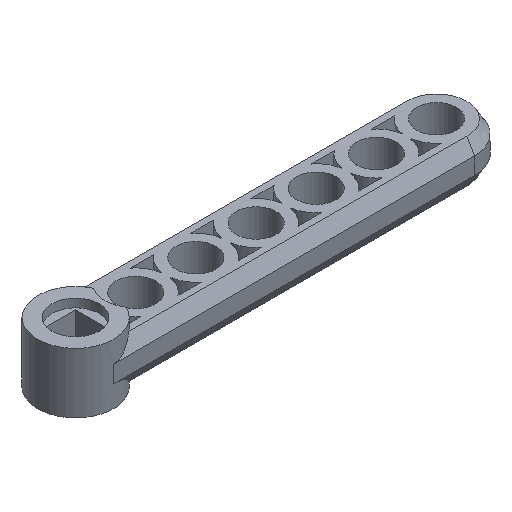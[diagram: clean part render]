
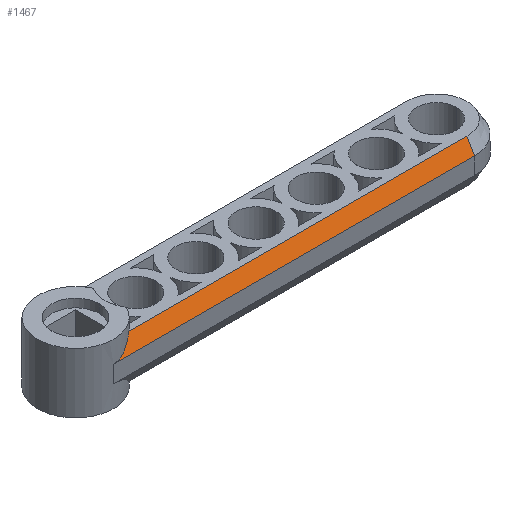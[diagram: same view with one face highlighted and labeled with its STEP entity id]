
A CAD part, isometric view. The second image highlights one B-rep face of the part: STEP entity #1467.
In plain terms, the highlighted planar face has unit normal (0, -0.866, 0.5).
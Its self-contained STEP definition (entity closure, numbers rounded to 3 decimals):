
#47 = FACE_OUTER_BOUND ( 'NONE', #2211, .T. ) ;
#79 = VECTOR ( 'NONE', #1424, 1000. ) ;
#82 = VERTEX_POINT ( 'NONE', #200 ) ;
#172 = VECTOR ( 'NONE', #829, 1000. ) ;
#200 = CARTESIAN_POINT ( 'NONE',  ( 38.1, -4., 0.9 ) ) ;
#223 = CARTESIAN_POINT ( 'NONE',  ( 38.1, -3.2, 2.286 ) ) ;
#256 = EDGE_CURVE ( 'NONE', #1491, #2900, #478, .T. ) ;
#478 = LINE ( 'NONE', #223, #79 ) ;
#484 = CARTESIAN_POINT ( 'NONE',  ( 0., -4., 0.9 ) ) ;
#591 = DIRECTION ( 'NONE',  ( 0., -0.5, -0.866 ) ) ;
#607 = DIRECTION ( 'NONE',  ( 0., -0.866, 0.5 ) ) ;
#652 = ORIENTED_EDGE ( 'NONE', *, *, #2482, .F. ) ;
#829 = DIRECTION ( 'NONE',  ( -1., 0., 0. ) ) ;
#1074 = EDGE_CURVE ( 'NONE', #82, #2772, #2035, .T. ) ;
#1113 = LINE ( 'NONE', #2089, #2714 ) ;
#1159 = CARTESIAN_POINT ( 'NONE',  ( 2.4, -3.2, 2.286 ) ) ;
#1283 = ORIENTED_EDGE ( 'NONE', *, *, #256, .F. ) ;
#1288 = CARTESIAN_POINT ( 'NONE',  ( 2.4, -3.2, 2.286 ) ) ;
#1404 = CARTESIAN_POINT ( 'NONE',  ( 1.701, -3.724, 1.379 ) ) ;
#1424 = DIRECTION ( 'NONE',  ( 1., 0., 0. ) ) ;
#1467 = ADVANCED_FACE ( 'NONE', ( #47 ), #2526, .T. ) ;
#1491 = VERTEX_POINT ( 'NONE', #1288 ) ;
#1900 = CARTESIAN_POINT ( 'NONE',  ( 0., -4., 0.9 ) ) ;
#2027 = CARTESIAN_POINT ( 'NONE',  ( 0., -3.2, 2.286 ) ) ;
#2035 = LINE ( 'NONE', #2083, #172 ) ;
#2081 = AXIS2_PLACEMENT_3D ( 'NONE', #2027, #607, #3004 ) ;
#2083 = CARTESIAN_POINT ( 'NONE',  ( 0., -4., 0.9 ) ) ;
#2089 = CARTESIAN_POINT ( 'NONE',  ( 38.1, -3.2, 2.286 ) ) ;
#2211 = EDGE_LOOP ( 'NONE', ( #652, #2887, #2266, #1283 ) ) ;
#2266 = ORIENTED_EDGE ( 'NONE', *, *, #2724, .F. ) ;
#2459 = CARTESIAN_POINT ( 'NONE',  ( 38.1, -3.2, 2.286 ) ) ;
#2482 = EDGE_CURVE ( 'NONE', #2772, #1491, #3192, .T. ) ;
#2526 = PLANE ( 'NONE',  #2081 ) ;
#2714 = VECTOR ( 'NONE', #591, 1000. ) ;
#2724 = EDGE_CURVE ( 'NONE', #2900, #82, #1113, .T. ) ;
#2772 = VERTEX_POINT ( 'NONE', #484 ) ;
#2887 = ORIENTED_EDGE ( 'NONE', *, *, #1074, .F. ) ;
#2900 = VERTEX_POINT ( 'NONE', #2459 ) ;
#2924 = CARTESIAN_POINT ( 'NONE',  ( 0.873, -4., 0.9 ) ) ;
#3004 = DIRECTION ( 'NONE',  ( -1., 0., 0. ) ) ;
#3192 =( BOUNDED_CURVE ( )  B_SPLINE_CURVE ( 3, ( #1900, #2924, #1404, #1159 ),
 .UNSPECIFIED., .F., .F. ) 
 B_SPLINE_CURVE_WITH_KNOTS ( ( 4, 4 ),
 ( 3.142, 3.785 ),
 .UNSPECIFIED. ) 
 CURVE ( )  GEOMETRIC_REPRESENTATION_ITEM ( )  RATIONAL_B_SPLINE_CURVE ( ( 1., 0.966, 0.966, 1. ) ) 
 REPRESENTATION_ITEM ( '' )  );
